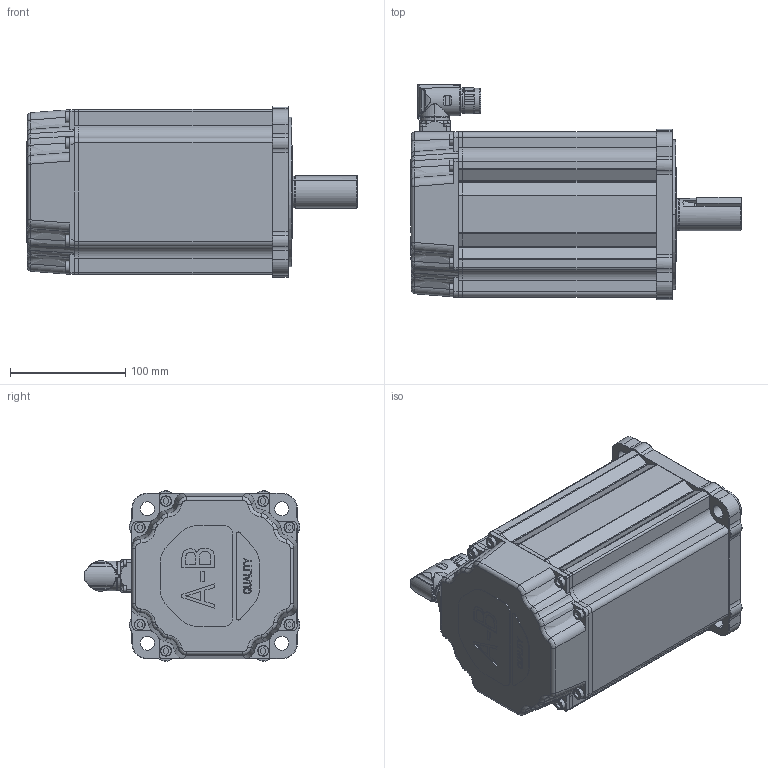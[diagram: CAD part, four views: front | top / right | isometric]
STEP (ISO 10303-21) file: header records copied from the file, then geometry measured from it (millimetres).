
FILE_DESCRIPTION (( 'STEP AP214' ), '1' );
FILE_NAME ('Rockwell Automation-$PARTNUMBER.STEP', '2014-07-25T14:02:47', ( 'Windows User' ), ( '' ), 'SwSTEP 2.0', 'SolidWorks 2014', '' );
FILE_SCHEMA (( 'AUTOMOTIVE_DESIGN' ));
Length unit declared in the file: inch
Products named in the file (4): Rockwell Automation-$PARTNUMBER_Rockwell Automation-VPF-x1652x-xJx2xx_Connector; Rockwell Automation-$PARTNUMBER_Rockwell Automation-VPF-x1652x-xJx2xx_VPF-165-Shaft_1652-SHAFT-KEYED; Rockwell Automation-$PARTNUMBER_Rockwell Automation-VPF-x1652x-xJx2xx_VPF-165-Body_1652; Rockwell Automation-$PARTNUMBER
Assembly tree (3 placements, depth 2):
  Rockwell Automation-$PARTNUMBER
    Rockwell Automation-$PARTNUMBER_Rockwell Automation-VPF-x1652x-xJx2xx_VPF-165-Body_1652
    Rockwell Automation-$PARTNUMBER_Rockwell Automation-VPF-x1652x-xJx2xx_VPF-165-Shaft_1652-SHAFT-KEYED
    Rockwell Automation-$PARTNUMBER_Rockwell Automation-VPF-x1652x-xJx2xx_Connector
Bounding box: 287.32 x 187.27 x 148.08 mm (x, y, z)
Volume: 2444050.1 mm3; surface area: 368463.5 mm2
Topology: 8 solids, 8 shells, 1194 faces, 2924 edges, 1850 vertices
Faces by surface type: plane 529, cylinder 366, cone 123, bspline 122, torus 36, sphere 18
Entity records: 55390 total; most frequent: CARTESIAN_POINT 12482, ORIENTED_EDGE 5828, DIRECTION 5699, EDGE_CURVE 2914, AXIS2_PLACEMENT_3D 2040, VERTEX_POINT 1850, LINE 1619, VECTOR 1619
